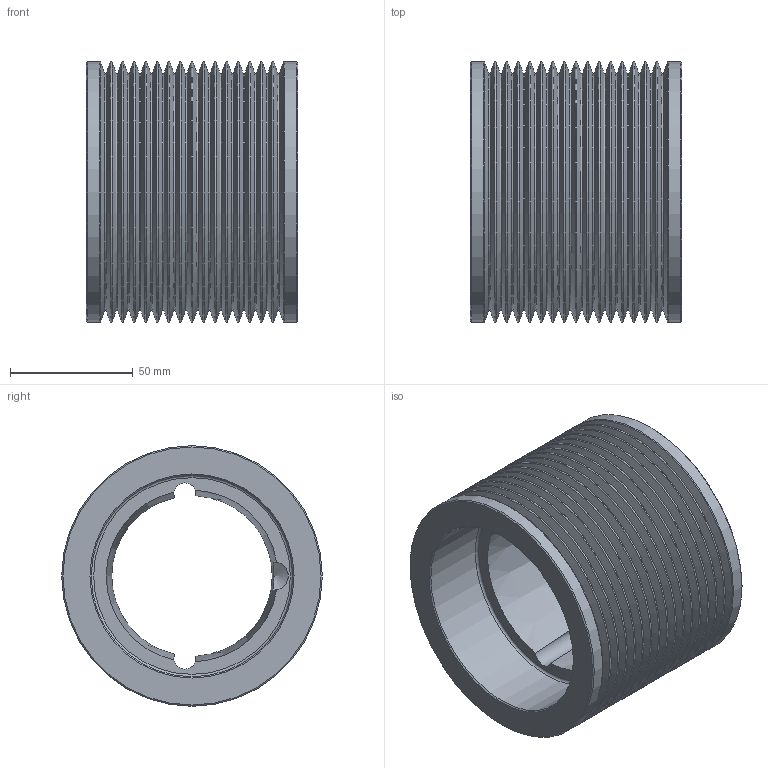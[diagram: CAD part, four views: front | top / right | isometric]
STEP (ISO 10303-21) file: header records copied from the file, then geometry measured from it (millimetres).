
FILE_DESCRIPTION(/* description */ (''),/* implementation_level */ '2;1');
FILE_NAME(/* name */ 'C:\Users\stagistaCAD\Desktop\48216106.stp',/* time_stamp */ '2018-06-14T11:19:44+02:00',/* author */ ('stagistacad'),/* organization */ (''),/* preprocessor_version */ 'ST-DEVELOPER v15.6',/* originating_system */ 'Autodesk Inventor 2015',/* authorisation */ '');
FILE_SCHEMA (('AUTOMOTIVE_DESIGN { 1 0 10303 214 3 1 1 }'));
Length unit declared in the file: millimetre
Products named in the file (1): 48216106
Bounding box: 86 x 106 x 106 mm (x, y, z)
Volume: 296709.5 mm3; surface area: 91970.5 mm2
Topology: 1 solids, 1 shells, 85 faces, 174 edges, 92 vertices
Faces by surface type: cone 39, torus 35, cylinder 7, plane 4
Full cylindrical faces by diameter (mm): 82 x2, 106 x2
Entity records: 1856 total; most frequent: DIRECTION 350, CARTESIAN_POINT 331, ORIENTED_EDGE 192, AXIS2_PLACEMENT_3D 175, EDGE_LOOP 164, EDGE_CURVE 96, VERTEX_POINT 90, CIRCLE 89
